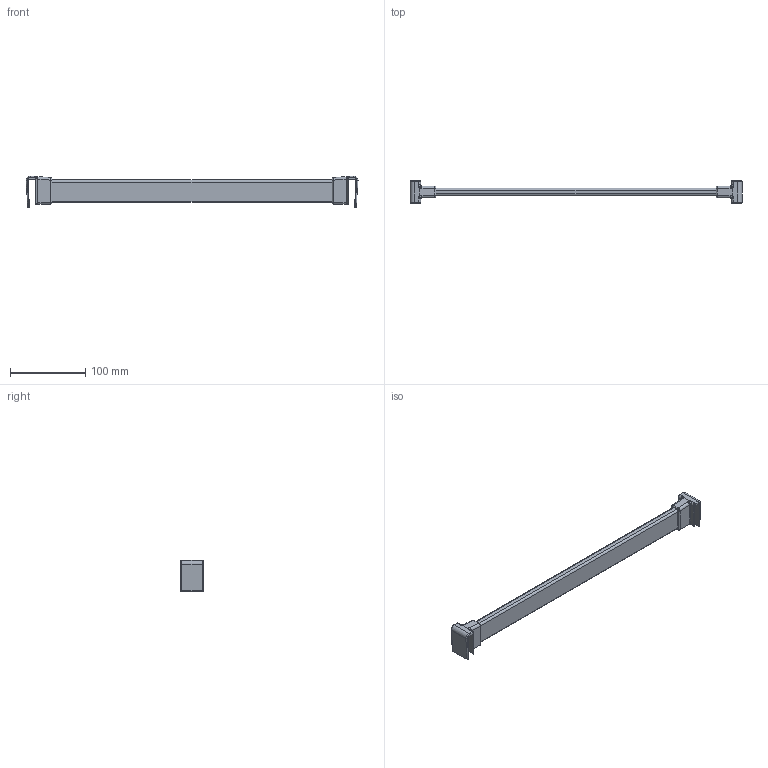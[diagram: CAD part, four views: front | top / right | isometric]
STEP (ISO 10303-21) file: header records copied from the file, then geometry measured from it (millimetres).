
FILE_DESCRIPTION (( 'STEP AP214' ), '1' );
FILE_NAME ('_Querreling_KAB-500_KS-16_P602_Glashalter.step', '2010-08-26T14:59:29', ( 'grass' ), ( '' ), 'SwSTEP 2.0', 'SolidWorks 2009', '' );
FILE_SCHEMA (( 'AUTOMOTIVE_DESIGN' ));
Length unit declared in the file: millimetre
Products named in the file (1): _Querreling_KAB-500_KS-16_P602_Glashalter
Bounding box: 440.78 x 30 x 41.5 mm (x, y, z)
Volume: 150025 mm3; surface area: 42722.7 mm2
Topology: 1 solids, 1 shells, 124 faces, 300 edges, 176 vertices
Faces by surface type: cylinder 58, plane 34, torus 16, bspline 12, sphere 4
Entity records: 5090 total; most frequent: CARTESIAN_POINT 2269, ORIENTED_EDGE 592, DIRECTION 590, EDGE_CURVE 296, AXIS2_PLACEMENT_3D 225, VERTEX_POINT 176, VECTOR 140, LINE 140
